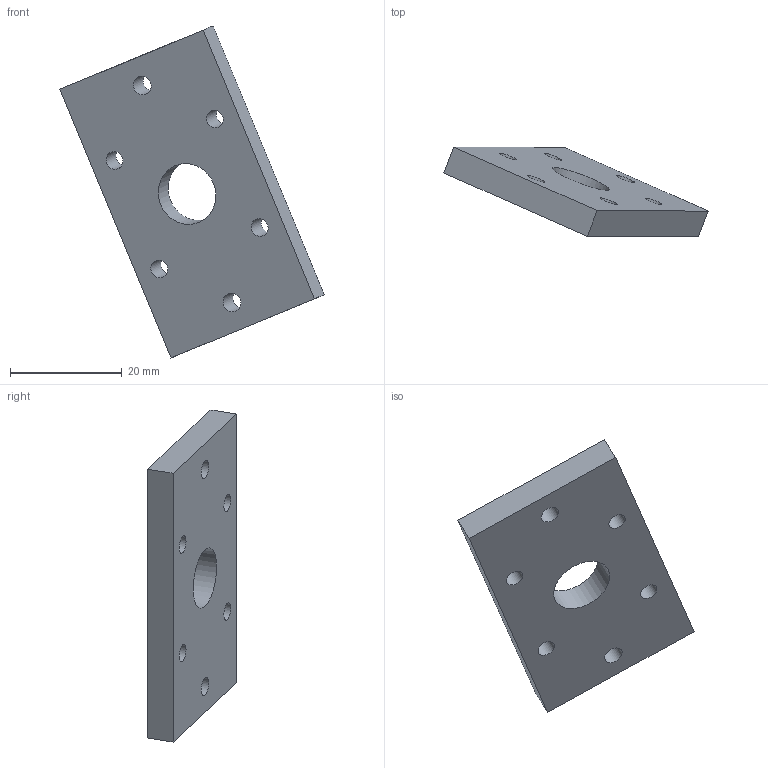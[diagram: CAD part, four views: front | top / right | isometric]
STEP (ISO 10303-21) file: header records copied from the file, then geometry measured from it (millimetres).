
FILE_DESCRIPTION(('Open CASCADE Model'),'2;1');
FILE_NAME('Open CASCADE Shape Model','2026-10-18T22:58:17',('Author'),( 'Open CASCADE'),'Open CASCADE STEP processor 7.9','Open CASCADE 7.9' ,'Unknown');
FILE_SCHEMA(('AUTOMOTIVE_DESIGN { 1 0 10303 214 1 1 1 1 }'));
Length unit declared in the file: millimetre
Products named in the file (1): Open CASCADE STEP translator 7.9 14
Bounding box: 47.26 x 16.02 x 59.38 mm (x, y, z)
Volume: 7073.2 mm3; surface area: 4129.9 mm2
Topology: 1 solids, 1 shells, 13 faces, 33 edges, 22 vertices
Faces by surface type: cylinder 7, plane 6
Full cylindrical faces by diameter (mm): 3.2 x4, 3.4 x2, 11 x1
Entity records: 868 total; most frequent: DIRECTION 141, CARTESIAN_POINT 135, LINE 71, VECTOR 71, ORIENTED_EDGE 66, PCURVE 66, DEFINITIONAL_REPRESENTATION 66, EDGE_CURVE 33
